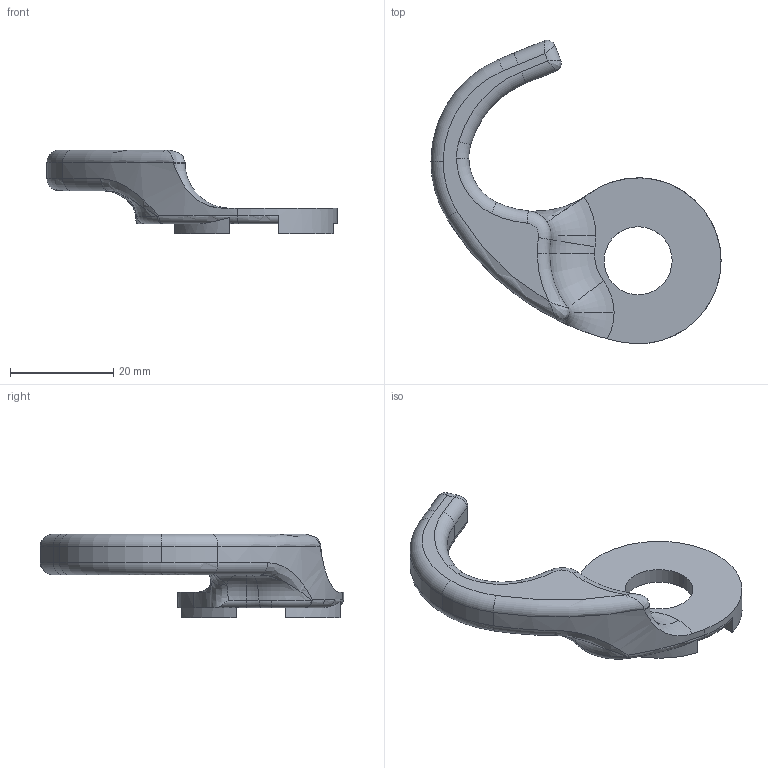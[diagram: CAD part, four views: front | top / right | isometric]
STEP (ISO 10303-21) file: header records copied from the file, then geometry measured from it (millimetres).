
FILE_DESCRIPTION (( 'STEP AP203' ), '1' );
FILE_NAME ('1x6 poplar trigger arm.STEP', '2018-03-02T19:44:06', ( '' ), ( '' ), 'SwSTEP 2.0', 'SolidWorks 2015', '' );
FILE_SCHEMA (( 'CONFIG_CONTROL_DESIGN' ));
Length unit declared in the file: inch
Products named in the file (1): 1x6 poplar trigger arm
Bounding box: 56.28 x 58.84 x 16.29 mm (x, y, z)
Volume: 7964.9 mm3; surface area: 4336.2 mm2
Topology: 1 solids, 1 shells, 94 faces, 236 edges, 139 vertices
Faces by surface type: torus 32, cylinder 31, plane 19, bspline 12
Entity records: 3588 total; most frequent: CARTESIAN_POINT 1310, DIRECTION 493, ORIENTED_EDGE 462, EDGE_CURVE 231, AXIS2_PLACEMENT_3D 213, VERTEX_POINT 139, CIRCLE 130, EDGE_LOOP 96
